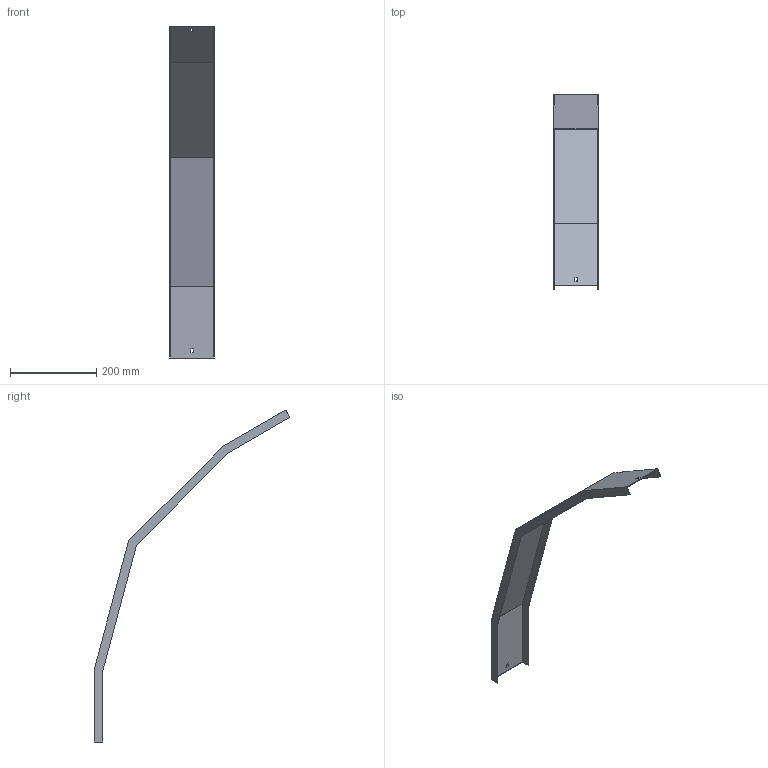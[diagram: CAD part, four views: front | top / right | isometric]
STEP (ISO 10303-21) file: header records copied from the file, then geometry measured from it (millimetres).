
FILE_DESCRIPTION (( 'STEP AP214' ), '1' );
FILE_NAME ('41N5J100.step', '2025-02-21T10:38:32', ( '' ), ( '' ), 'SwSTEP 2.0', 'SolidWorks 2023', '' );
FILE_SCHEMA (( 'AUTOMOTIVE_DESIGN' ));
Length unit declared in the file: millimetre
Products named in the file (1): 41N5J100
Bounding box: 103 x 454.7 x 770.25 mm (x, y, z)
Volume: 199670 mm3; surface area: 269544.1 mm2
Topology: 1 solids, 1 shells, 30 faces, 84 edges, 56 vertices
Faces by surface type: plane 30
Entity records: 979 total; most frequent: CARTESIAN_POINT 171, ORIENTED_EDGE 168, DIRECTION 146, LINE 84, EDGE_CURVE 84, VECTOR 84, VERTEX_POINT 56, EDGE_LOOP 34
